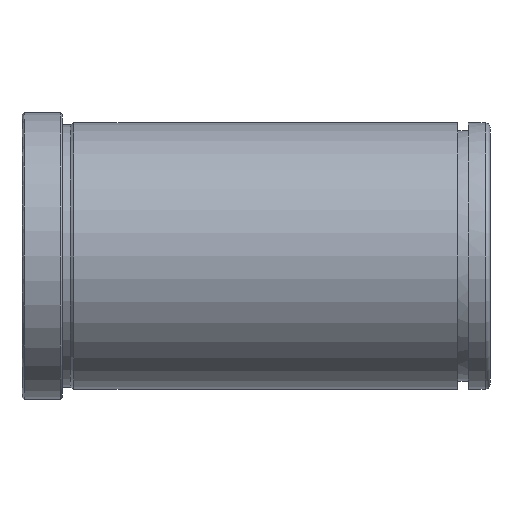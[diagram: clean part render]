
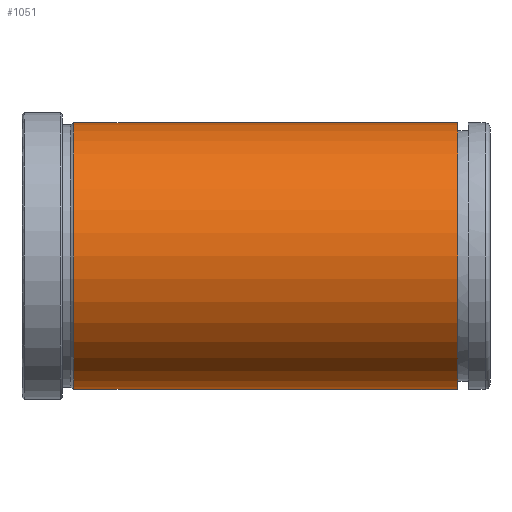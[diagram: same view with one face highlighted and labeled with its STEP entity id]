
A CAD part, front view. The second image highlights one B-rep face of the part: STEP entity #1051.
In plain terms, the highlighted cylindrical face has radius 33 mm (diameter 66 mm), a partial arc.
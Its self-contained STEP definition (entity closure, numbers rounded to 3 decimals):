
#851=CARTESIAN_POINT('Vertex',(12.866,0.,-33.)) ;
#858=CARTESIAN_POINT('Vertex',(12.866,0.,33.)) ;
#887=CARTESIAN_POINT('Axis2P3D Location',(12.866,0.,0.)) ;
#891=CARTESIAN_POINT('Vertex',(12.866,-33.,0.)) ;
#894=CARTESIAN_POINT('Axis2P3D Location',(12.866,0.,0.)) ;
#991=CARTESIAN_POINT('Line Origine',(232.,0.,33.)) ;
#995=CARTESIAN_POINT('Vertex',(108.,0.,33.)) ;
#1009=CARTESIAN_POINT('Vertex',(108.,0.,-33.)) ;
#1012=CARTESIAN_POINT('Line Origine',(232.,0.,-33.)) ;
#1026=CARTESIAN_POINT('Axis2P3D Location',(232.,0.,0.)) ;
#1031=CARTESIAN_POINT('Axis2P3D Location',(108.,0.,0.)) ;
#1035=CARTESIAN_POINT('Vertex',(108.,-33.,0.)) ;
#1038=CARTESIAN_POINT('Axis2P3D Location',(108.,0.,0.)) ;
#888=DIRECTION('Axis2P3D Direction',(1.,0.,-0.)) ;
#895=DIRECTION('Axis2P3D Direction',(1.,0.,-0.)) ;
#992=DIRECTION('Vector Direction',(-1.,0.,0.)) ;
#1013=DIRECTION('Vector Direction',(-1.,0.,0.)) ;
#1027=DIRECTION('Axis2P3D Direction',(-1.,-0.,-0.)) ;
#1028=DIRECTION('Axis2P3D XDirection',(0.,0.,-1.)) ;
#1032=DIRECTION('Axis2P3D Direction',(-1.,-0.,-0.)) ;
#1039=DIRECTION('Axis2P3D Direction',(-1.,-0.,-0.)) ;
#889=AXIS2_PLACEMENT_3D('Circle Axis2P3D',#887,#888,$) ;
#896=AXIS2_PLACEMENT_3D('Circle Axis2P3D',#894,#895,$) ;
#1029=AXIS2_PLACEMENT_3D('Cylinder Axis2P3D',#1026,#1027,#1028) ;
#1033=AXIS2_PLACEMENT_3D('Circle Axis2P3D',#1031,#1032,$) ;
#1040=AXIS2_PLACEMENT_3D('Circle Axis2P3D',#1038,#1039,$) ;
#1044=ORIENTED_EDGE('',*,*,#1016,.T.) ;
#1045=ORIENTED_EDGE('',*,*,#1037,.F.) ;
#1046=ORIENTED_EDGE('',*,*,#1042,.F.) ;
#1047=ORIENTED_EDGE('',*,*,#997,.T.) ;
#1048=ORIENTED_EDGE('',*,*,#898,.T.) ;
#1049=ORIENTED_EDGE('',*,*,#893,.T.) ;
#993=VECTOR('Line Direction',#992,1.) ;
#1014=VECTOR('Line Direction',#1013,1.) ;
#1051=ADVANCED_FACE('553-50X116',(#1050),#1030,.T.) ;
#890=CIRCLE('generated circle',#889,33.) ;
#897=CIRCLE('generated circle',#896,33.) ;
#1034=CIRCLE('generated circle',#1033,33.) ;
#1041=CIRCLE('generated circle',#1040,33.) ;
#1030=CYLINDRICAL_SURFACE('generated cylinder',#1029,33.) ;
#893=EDGE_CURVE('',#892,#852,#890,.T.) ;
#898=EDGE_CURVE('',#859,#892,#897,.T.) ;
#997=EDGE_CURVE('',#996,#859,#994,.T.) ;
#1016=EDGE_CURVE('',#852,#1010,#1015,.F.) ;
#1037=EDGE_CURVE('',#1036,#1010,#1034,.F.) ;
#1042=EDGE_CURVE('',#996,#1036,#1041,.F.) ;
#1043=EDGE_LOOP('',(#1044,#1045,#1046,#1047,#1048,#1049)) ;
#1050=FACE_OUTER_BOUND('',#1043,.T.) ;
#994=LINE('Line',#991,#993) ;
#1015=LINE('Line',#1012,#1014) ;
#852=VERTEX_POINT('',#851) ;
#859=VERTEX_POINT('',#858) ;
#892=VERTEX_POINT('',#891) ;
#996=VERTEX_POINT('',#995) ;
#1010=VERTEX_POINT('',#1009) ;
#1036=VERTEX_POINT('',#1035) ;
